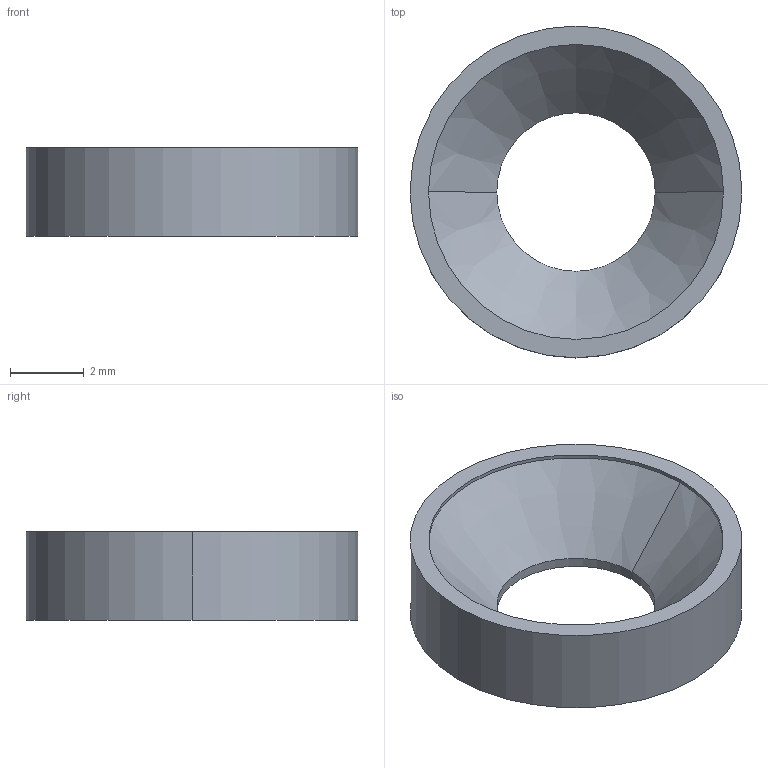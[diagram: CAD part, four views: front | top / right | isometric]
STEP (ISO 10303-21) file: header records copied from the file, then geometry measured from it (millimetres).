
FILE_DESCRIPTION (( 'STEP AP214' ), '1' );
FILE_NAME ('座金A M4_2.4mm厚.STEP', '2024-06-18T05:02:17', ( '' ), ( '' ), 'SwSTEP 2.0', 'SolidWorks 2023', '' );
FILE_SCHEMA (( 'AUTOMOTIVE_DESIGN' ));
Length unit declared in the file: millimetre
Products named in the file (1): 座金A M4_2.4mm厚
Bounding box: 9 x 9 x 2.4 mm (x, y, z)
Volume: 81.5 mm3; surface area: 189.5 mm2
Topology: 1 solids, 1 shells, 10 faces, 20 edges, 12 vertices
Faces by surface type: cylinder 6, cone 2, plane 2
Entity records: 291 total; most frequent: DIRECTION 54, CARTESIAN_POINT 43, ORIENTED_EDGE 40, AXIS2_PLACEMENT_3D 23, EDGE_CURVE 20, EDGE_LOOP 12, CIRCLE 12, VERTEX_POINT 12
